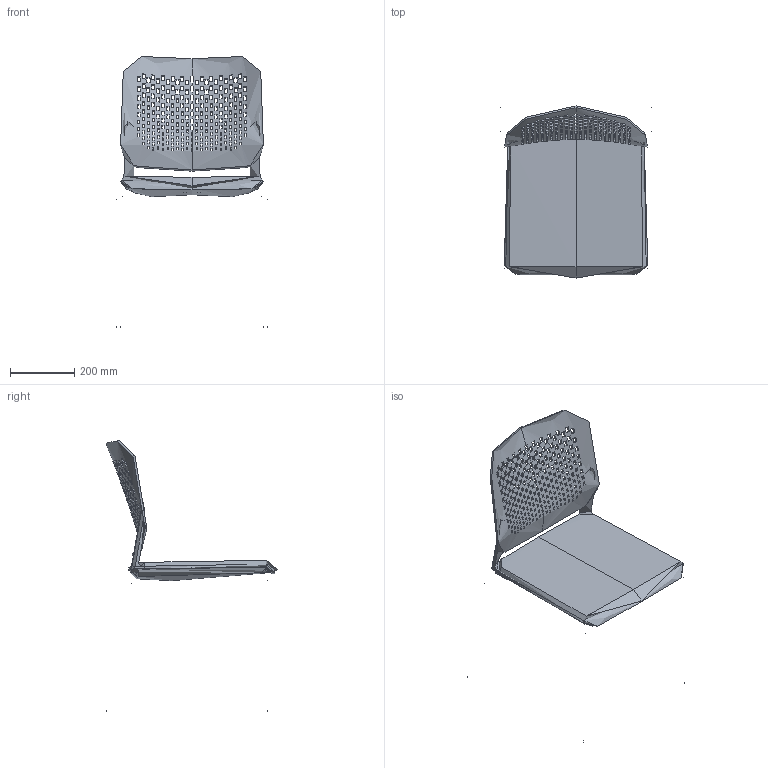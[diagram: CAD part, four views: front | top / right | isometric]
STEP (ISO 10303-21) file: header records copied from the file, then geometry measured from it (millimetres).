
FILE_DESCRIPTION(/* description */ (''),/* implementation_level */ '2;1');
FILE_NAME(/* name */ 'Time 171',/* time_stamp */ '2019-11-22T23:01:50+01:00',/* author */ (''),/* organization */ (''),/* preprocessor_version */ 'ST-DEVELOPER v16.5',/* originating_system */ '',/* authorisation */ '');
FILE_SCHEMA (('AUTOMOTIVE_DESIGN'));
Length unit declared in the file: millimetre
Products named in the file (1): Document
Bounding box: 468 x 533.25 x 840.75 mm (x, y, z)
Volume: 4511806.5 mm3; surface area: 1566997.9 mm2
Topology: 1 solids, 9 shells, 1088 faces, 3221 edges, 2113 vertices
Faces by surface type: bspline 608, plane 480
Entity records: 60986 total; most frequent: CARTESIAN_POINT 40337, ORIENTED_EDGE 6398, EDGE_CURVE 3218, B_SPLINE_CURVE_WITH_KNOTS 3141, VERTEX_POINT 2111, EDGE_LOOP 1536, ADVANCED_FACE 1088, FACE_OUTER_BOUND 1088
